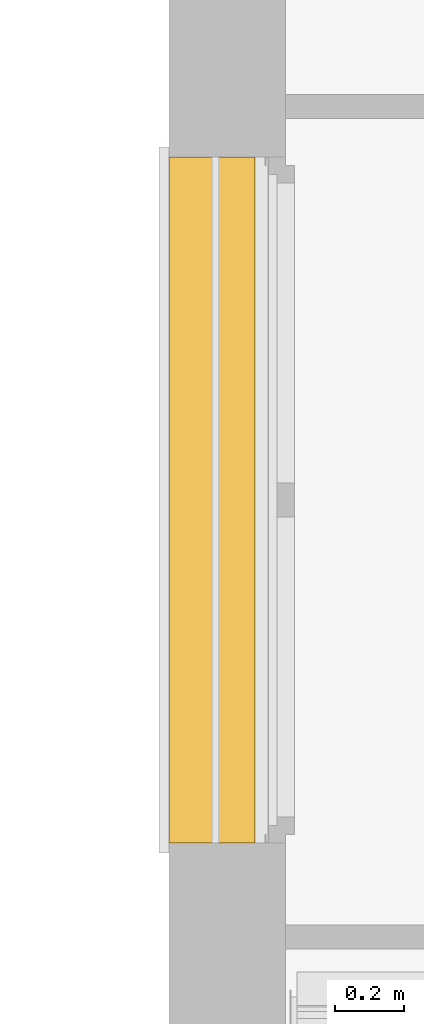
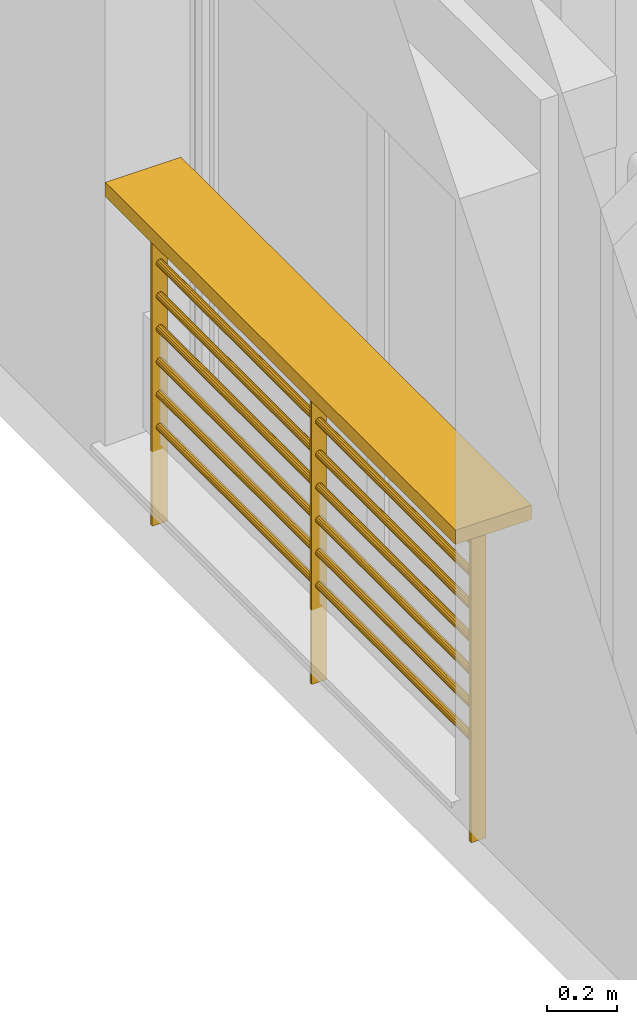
# One storey, part 117 of 171: 1 railing.
"""IFC2X3 building model written with IfcOpenShell, lengths in millimetres."""

import ifcopenshell
import ifcopenshell.guid

model = None  # the IFC model being written
_history = None  # IfcOwnerHistory: only IFC2X3 demands one
_inside = {}  # id of a spatial element -> (the spatial element, [elements in it])
_under = {}  # id of a project, library or spatial element -> (it, [spatial elements below it])
_declared = {}  # id of a project -> (the project, [libraries it declares])
_typed = {}  # id of a type object -> (the type object, [elements of that type])
_made_of = {}  # id of a material, layer set ... -> (it, [elements and type objects made of it])


def new_model(schema):
    """Start an empty IFC model of exactly this schema.

    Asked for "IFC4X3", IfcOpenShell would pick the latest addendum, in which some entities
    have other attributes; the version numbers below select the first issue.
    IFC2X3 requires an IfcOwnerHistory on every rooted entity: one is made here for all.
    """
    global model, _history
    if schema == "IFC4X3":
        model = ifcopenshell.file(schema_version=(4, 3, 0, 0))
    else:
        model = ifcopenshell.file(schema=schema)
    _inside.clear()
    _under.clear()
    _declared.clear()
    _typed.clear()
    _made_of.clear()
    _history = None
    if model.schema == "IFC2X3":
        org = make("IfcOrganization", Name="unknown")
        user = make(
            "IfcPersonAndOrganization",
            ThePerson=make("IfcPerson", FamilyName="unknown"),
            TheOrganization=org,
        )
        app = make(
            "IfcApplication",
            ApplicationDeveloper=org,
            Version="unknown",
            ApplicationFullName="unknown",
            ApplicationIdentifier="unknown",
        )
        _history = make(
            "IfcOwnerHistory",
            OwningUser=user,
            OwningApplication=app,
            ChangeAction="ADDED",
            CreationDate=0,
        )
    return model


def make(cls, **values):
    """One entity of the class cls with the attributes given. An attribute that is None is left unset."""
    return model.create_entity(
        cls, **{name: value for name, value in values.items() if value is not None}
    )


def entity(cls, *values):
    """Any entity or typed value of the class cls, its attributes in the order of the schema. None: left unset."""
    e = model.create_entity(cls)
    for i, value in enumerate(values):
        if value is not None:
            e[i] = value
    return e


def rooted(cls, **values):
    """An entity with a GlobalId (a new one), such as an element, a storey or a relation."""
    return make(cls, GlobalId=ifcopenshell.guid.new(), OwnerHistory=_history, **values)


def si_unit(unit_type, name, prefix=None):
    """IfcSIUnit, for example si_unit("LENGTHUNIT", "METRE", prefix="MILLI")."""
    return make("IfcSIUnit", UnitType=unit_type, Prefix=prefix, Name=name)


def converted_unit(unit_type, name, factor, base, dimensions=None, offset=None):
    """IfcConversionBasedUnit, such as the inch: factor (a typed value) times the base unit."""
    return make(
        "IfcConversionBasedUnit"
        if offset is None
        else "IfcConversionBasedUnitWithOffset",
        ConversionOffset=offset,
        Dimensions=None
        if dimensions is None
        else entity("IfcDimensionalExponents", *dimensions),
        UnitType=unit_type,
        Name=name,
        ConversionFactor=make(
            "IfcMeasureWithUnit", ValueComponent=factor, UnitComponent=base
        ),
    )


def derived_unit(unit_type, elements):
    """IfcDerivedUnit: a product of units, each with its exponent."""
    return make(
        "IfcDerivedUnit",
        Elements=[
            make("IfcDerivedUnitElement", Unit=unit, Exponent=power)
            for unit, power in elements
        ],
        UnitType=unit_type,
    )


def money_unit(currency):
    """IfcMonetaryUnit."""
    return make("IfcMonetaryUnit", Currency=currency)


def assignment(units):
    """IfcUnitAssignment: the units of a project."""
    return None if units is None else make("IfcUnitAssignment", Units=units)


def point(xyz):
    """IfcCartesianPoint."""
    return None if xyz is None else make("IfcCartesianPoint", Coordinates=xyz)


def direction(xyz):
    """IfcDirection."""
    return None if xyz is None else make("IfcDirection", DirectionRatios=xyz)


def frame(location, z_axis=None, x_axis=None):
    """IfcAxis2Placement3D, a coordinate frame: its origin and axes. An axis left out is left unset."""
    return make(
        "IfcAxis2Placement3D",
        Location=point(location),
        Axis=direction(z_axis),
        RefDirection=direction(x_axis),
    )


def origin_with_axes():
    """The frame at (0, 0, 0) with the z axis (0, 0, 1) and the x axis (1, 0, 0) written out."""
    return frame((0.0, 0.0, 0.0), z_axis=(0.0, 0.0, 1.0), x_axis=(1.0, 0.0, 0.0))


def place(relative_to, where):
    """IfcLocalPlacement: puts the frame where relative to a parent placement (None: the world)."""
    return make(
        "IfcLocalPlacement", PlacementRelTo=relative_to, RelativePlacement=where
    )


def context(
    kind, dimensions, precision=None, world=None, true_north=None, identifier=None
):
    """IfcGeometricRepresentationContext, for example the 3D "Model" context."""
    return make(
        "IfcGeometricRepresentationContext",
        ContextIdentifier=identifier,
        ContextType=kind,
        CoordinateSpaceDimension=dimensions,
        Precision=precision,
        WorldCoordinateSystem=world,
        TrueNorth=true_north,
    )


def subcontext(parent, identifier, kind, view, scale=None):
    """IfcGeometricRepresentationSubContext, for example "Body" below "Model"."""
    return make(
        "IfcGeometricRepresentationSubContext",
        ContextIdentifier=identifier,
        ContextType=kind,
        ParentContext=parent,
        TargetScale=scale,
        TargetView=view,
    )


def project(units=None, contexts=None):
    """IfcProject with its units and contexts."""
    return rooted(
        "IfcProject",
        Name="project",
        RepresentationContexts=contexts,
        UnitsInContext=assignment(units),
    )


def spatial(cls, under=None, at=None, **own):
    """A site, building, storey or space (cls), placed at a placement, below another one or the project."""
    s = rooted(cls, ObjectPlacement=at, **own)
    if under is not None:
        _under.setdefault(under.id(), (under, []))[1].append(s)
    return s


def faces_of(points, faces, orient=None, outer=None):
    """IfcFace entities. A face is a list of loops; a loop is a list of indices into points, from 0.

    orient and outer hold one flag for each loop. By default every Orientation is true, the
    first loop of a face is its IfcFaceOuterBound and the others are IfcFaceBound.
    """
    made = []
    for i, loops in enumerate(faces):
        bounds = []
        for j, loop in enumerate(loops):
            is_outer = j == 0 if outer is None else outer[i][j]
            bounds.append(
                make(
                    "IfcFaceOuterBound" if is_outer else "IfcFaceBound",
                    Bound=make("IfcPolyLoop", Polygon=[points[k] for k in loop]),
                    Orientation=True if orient is None else orient[i][j],
                )
            )
        made.append(make("IfcFace", Bounds=bounds))
    return made


def faceted_brep(points, faces, orient=None, outer=None, voids=None):
    """IfcFacetedBrep: a solid bounded by flat faces; with voids (closed shells), ...WithVoids."""
    shared = [point(p) for p in points]
    hull = make("IfcClosedShell", CfsFaces=faces_of(shared, faces, orient, outer))
    if voids is None:
        return make("IfcFacetedBrep", Outer=hull)
    return make(
        "IfcFacetedBrepWithVoids",
        Outer=hull,
        Voids=[
            make(cls, CfsFaces=faces_of(shared, fs, o, b)) for cls, fs, o, b in voids
        ],
    )


def shape(context_of_items, identifier, shape_type, items):
    """IfcShapeRepresentation: the items that make up one representation, for example the "Body"."""
    return make(
        "IfcShapeRepresentation",
        ContextOfItems=context_of_items,
        RepresentationIdentifier=identifier,
        RepresentationType=shape_type,
        Items=items,
    )


def source(mapping_origin, context_of_items, identifier, shape_type, items):
    """IfcRepresentationMap: a shape defined once, which mapped items show again and again."""
    return make(
        "IfcRepresentationMap",
        MappingOrigin=mapping_origin,
        MappedRepresentation=shape(context_of_items, identifier, shape_type, items),
    )


def transform(
    local_origin,
    x_axis=None,
    y_axis=None,
    z_axis=None,
    scale=None,
    scale2=None,
    scale3=None,
    uniform=True,
):
    """IfcCartesianTransformationOperator3D, or its non-uniform kind. x_axis, y_axis, z_axis: its Axis1, 2, 3."""
    if uniform:
        return make(
            "IfcCartesianTransformationOperator3D",
            Axis1=direction(x_axis),
            Axis2=direction(y_axis),
            LocalOrigin=point(local_origin),
            Scale=scale,
            Axis3=direction(z_axis),
        )
    return make(
        "IfcCartesianTransformationOperator3DnonUniform",
        Axis1=direction(x_axis),
        Axis2=direction(y_axis),
        LocalOrigin=point(local_origin),
        Scale=scale,
        Axis3=direction(z_axis),
        Scale2=scale2,
        Scale3=scale3,
    )


def mapped(mapping_source, mapping_target):
    """IfcMappedItem: shows the shape of a source again, moved by a transform."""
    return make(
        "IfcMappedItem", MappingSource=mapping_source, MappingTarget=mapping_target
    )


def made_of(thing, what):
    """Note that an element or type object is made of a material, layer set ...; save() writes the relation."""
    if what is not None:
        _made_of.setdefault(what.id(), (what, []))[1].append(thing)
    return thing


def type_object(cls, material=None, **own):
    """A type object (cls), such as IfcWallType, which elements share."""
    return made_of(rooted(cls, **own), material)


def element(
    cls,
    number,
    at=None,
    inside=None,
    cuts=None,
    type_object=None,
    material=None,
    context=None,
    identifier="Body",
    shape_type=None,
    held_by="IfcProductDefinitionShape",
    body=None,
    shapes=None,
    **own,
):
    """One element of the class cls, such as IfcWall. Its Tag is "e" and its number.

    at: its placement. inside: the storey or other place that contains it. cuts: it is an
    opening in that element (IfcRelVoidsElement). A single representation is given by context,
    identifier, shape_type and body (its items); several are given by shapes. held_by: the class
    of the entity that holds the representations. save() writes the other relations.
    """
    e = rooted(cls, Tag="e%d" % number, ObjectPlacement=at, **own)
    if body is not None:
        shapes = [shape(context, identifier, shape_type, body)]
    if shapes is not None:
        e.Representation = make(held_by, Representations=shapes)
    if inside is not None:
        _inside.setdefault(inside.id(), (inside, []))[1].append(e)
    if cuts is not None:
        rooted(
            "IfcRelVoidsElement", RelatingBuildingElement=cuts, RelatedOpeningElement=e
        )
    if type_object is not None:
        _typed.setdefault(type_object.id(), (type_object, []))[1].append(e)
    return made_of(e, material)


def aggregate(whole, parts):
    """IfcRelAggregates: a whole, such as a stair, and the parts it consists of."""
    return rooted("IfcRelAggregates", RelatingObject=whole, RelatedObjects=parts)


def save(model, path):
    """Write the relations noted so far, then the file.

    IfcRelAggregates (storeys below a building ...), IfcRelContainedInSpatialStructure (elements
    in a storey), IfcRelDefinesByType, IfcRelAssociatesMaterial and IfcRelDeclares: one each for
    every whole, place, type object, material and project.
    """
    for whole, parts in _under.values():
        aggregate(whole, parts)
    for where, things in _inside.values():
        rooted(
            "IfcRelContainedInSpatialStructure",
            RelatedElements=things,
            RelatingStructure=where,
        )
    for kind, things in _typed.values():
        rooted("IfcRelDefinesByType", RelatedObjects=things, RelatingType=kind)
    for what, things in _made_of.values():
        rooted("IfcRelAssociatesMaterial", RelatedObjects=things, RelatingMaterial=what)
    for by, libraries in _declared.values():
        rooted("IfcRelDeclares", RelatingContext=by, RelatedDefinitions=libraries)
    model.write(path)


model = new_model("IFC2X3")

# Units and contexts
model_context = context("Model", 3, precision=0.01, world=origin_with_axes(), true_north=direction((0.0, 1.0)))
body_context = subcontext(model_context, "Body", "Model", "MODEL_VIEW")
ifc_project = project(units=[si_unit("LENGTHUNIT", "METRE", prefix="MILLI"), si_unit("AREAUNIT", "SQUARE_METRE"), si_unit("VOLUMEUNIT", "CUBIC_METRE"), converted_unit("PLANEANGLEUNIT", "DEGREE", entity("IfcPlaneAngleMeasure", 0.0174532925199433), si_unit("PLANEANGLEUNIT", "RADIAN"), dimensions=[0, 0, 0, 0, 0, 0, 0]), money_unit("USD"), converted_unit("TIMEUNIT", "Year", entity("IfcTimeMeasure", 31557600.0), si_unit("TIMEUNIT", "SECOND"), dimensions=[0, 0, 1, 0, 0, 0, 0]), si_unit("MASSUNIT", "GRAM", prefix="KILO"), si_unit("THERMODYNAMICTEMPERATUREUNIT", "DEGREE_CELSIUS"), si_unit("LUMINOUSINTENSITYUNIT", "LUMEN"), si_unit("ENERGYUNIT", "JOULE", prefix="MEGA"), derived_unit("THERMALCONDUCTANCEUNIT", [(si_unit("POWERUNIT", "WATT"), 1), (si_unit("LENGTHUNIT", "METRE"), -1), (si_unit("THERMODYNAMICTEMPERATUREUNIT", "KELVIN"), -1)]), derived_unit("SPECIFICHEATCAPACITYUNIT", [(si_unit("ENERGYUNIT", "JOULE"), 1), (si_unit("MASSUNIT", "GRAM", prefix="KILO"), -1), (si_unit("THERMODYNAMICTEMPERATUREUNIT", "KELVIN"), -1)]), derived_unit("MASSDENSITYUNIT", [(si_unit("MASSUNIT", "GRAM", prefix="KILO"), 1), (si_unit("VOLUMEUNIT", "CUBIC_METRE"), -1)])], contexts=[model_context])

# Site, building, storey
site_placement = place(None, origin_with_axes())
site = spatial("IfcSite", under=ifc_project, at=site_placement, Name="Site", CompositionType="ELEMENT")
building_placement = place(site_placement, origin_with_axes())
building = spatial("IfcBuilding", under=site, at=building_placement, Name="Bâtiment", CompositionType="ELEMENT")
storey_placement = place(building_placement, frame((0.0, 0.0, 3000.0), z_axis=(0.0, 0.0, 1.0), x_axis=(1.0, 0.0, 0.0)))
storey = spatial("IfcBuildingStorey", under=building, at=storey_placement, Name="rdc", CompositionType="ELEMENT", Elevation=3000.0)

# Railing
railing_type = type_object("IfcRailingType", Name="Cadre avec câble 01 20", PredefinedType="NOTDEFINED")
shared_shape = source(origin_with_axes(), body_context, "Body", "Brep", [
    faceted_brep([(0.0, 125.0, 950.0), (0.0, -125.0, 950.0), (0.0, -125.0, 1000.0), (0.0, 125.0, 1000.0), (1999.999999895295, 125.0, 950.0), (1999.999999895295, -125.0, 950.0), (1999.999999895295, -125.0, 1000.0), (1999.999999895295, 125.0, 1000.0)], [[[0, 1, 2, 3]], [[0, 4, 5, 1]], [[1, 5, 6, 2]], [[3, 2, 6, 7]], [[4, 0, 3, 7]], [[5, 4, 7, 6]]]),
    faceted_brep([(84.99999999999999, -25.0, -176.0), (95.0, -25.0, -176.0), (95.0, -25.0, 950.0), (84.99999999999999, -25.0, 950.0), (84.99999999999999, 25.0, -176.0), (95.0, 25.0, -176.0), (95.0, 25.0, 950.0), (84.99999999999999, 25.0, 950.0)], [[[0, 1, 2, 3]], [[0, 4, 5, 1]], [[1, 5, 6, 2]], [[3, 2, 6, 7]], [[4, 0, 3, 7]], [[5, 4, 7, 6]]]),
    faceted_brep([(994.9999999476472, -25.0, -176.0), (1004.999999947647, -25.0, -176.0), (1004.999999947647, -25.0, 950.0), (994.9999999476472, -25.0, 950.0), (994.9999999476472, 25.0, -176.0), (1004.999999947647, 25.0, -176.0), (1004.999999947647, 25.0, 950.0), (994.9999999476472, 25.0, 950.0)], [[[0, 1, 2, 3]], [[0, 4, 5, 1]], [[1, 5, 6, 2]], [[3, 2, 6, 7]], [[4, 0, 3, 7]], [[5, 4, 7, 6]]]),
    faceted_brep([(1904.999999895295, -25.0, -176.0), (1914.999999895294, -25.0, -176.0), (1914.999999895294, -25.0, 950.0), (1904.999999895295, -25.0, 950.0), (1904.999999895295, 25.0, -176.0), (1914.999999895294, 25.0, -176.0), (1914.999999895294, 25.0, 950.0), (1904.999999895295, 25.0, 950.0)], [[[0, 1, 2, 3]], [[0, 4, 5, 1]], [[1, 5, 6, 2]], [[3, 2, 6, 7]], [[4, 0, 3, 7]], [[5, 4, 7, 6]]]),
    faceted_brep([(994.9999999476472, 10.82531754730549, 168.7500000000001), (994.9999999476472, 12.5, 162.5000000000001), (95.0, 12.5, 162.5), (95.0, 10.82531754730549, 168.75), (994.9999999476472, 10.82531754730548, 156.2500000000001), (994.9999999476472, 6.250000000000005, 173.3253175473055), (994.9999999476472, 0.0, 175.0000000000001), (994.9999999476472, -6.249999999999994, 173.3253175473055), (994.9999999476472, -10.82531754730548, 168.7500000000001), (994.9999999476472, -12.5, 162.5000000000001), (994.9999999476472, -10.82531754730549, 156.2500000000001), (994.9999999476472, -6.250000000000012, 151.6746824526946), (994.9999999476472, 0.0, 150.0000000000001), (994.9999999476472, 6.249999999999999, 151.6746824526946), (95.0, 10.82531754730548, 156.25), (95.0, 6.249999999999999, 151.6746824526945), (95.0, 0.0, 150.0), (95.0, -6.250000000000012, 151.6746824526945), (95.0, -10.82531754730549, 156.25), (95.0, -12.5, 162.5), (95.0, -10.82531754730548, 168.75), (95.0, -6.249999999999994, 173.3253175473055), (95.0, 0.0, 175.0), (95.0, 6.250000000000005, 173.3253175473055)], [[[0, 1, 2, 3]], [[4, 1, 0, 5, 6, 7, 8, 9, 10, 11, 12, 13]], [[1, 4, 14, 2]], [[3, 2, 14, 15, 16, 17, 18, 19, 20, 21, 22, 23]], [[5, 0, 3, 23]], [[6, 5, 23, 22]], [[7, 6, 22, 21]], [[8, 7, 21, 20]], [[9, 8, 20, 19]], [[10, 9, 19, 18]], [[11, 10, 18, 17]], [[12, 11, 17, 16]], [[13, 12, 16, 15]], [[4, 13, 15, 14]]]),
    faceted_brep([(1004.999999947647, 10.82531754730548, 156.2500000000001), (1004.999999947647, 12.5, 162.5000000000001), (1904.999999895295, 12.5, 162.5000000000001), (1904.999999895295, 10.82531754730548, 156.2500000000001), (1004.999999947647, 10.82531754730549, 168.7500000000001), (1004.999999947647, 6.249999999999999, 151.6746824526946), (1004.999999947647, 0.0, 150.0000000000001), (1004.999999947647, -6.250000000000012, 151.6746824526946), (1004.999999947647, -10.82531754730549, 156.2500000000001), (1004.999999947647, -12.5, 162.5000000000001), (1004.999999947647, -10.82531754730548, 168.7500000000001), (1004.999999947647, -6.249999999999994, 173.3253175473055), (1004.999999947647, 0.0, 175.0000000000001), (1004.999999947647, 6.250000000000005, 173.3253175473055), (1904.999999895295, 10.82531754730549, 168.7500000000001), (1904.999999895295, 6.250000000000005, 173.3253175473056), (1904.999999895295, 0.0, 175.0000000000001), (1904.999999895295, -6.249999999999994, 173.3253175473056), (1904.999999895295, -10.82531754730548, 168.7500000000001), (1904.999999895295, -12.5, 162.5000000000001), (1904.999999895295, -10.82531754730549, 156.2500000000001), (1904.999999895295, -6.250000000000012, 151.6746824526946), (1904.999999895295, 0.0, 150.0000000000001), (1904.999999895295, 6.249999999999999, 151.6746824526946)], [[[0, 1, 2, 3]], [[4, 1, 0, 5, 6, 7, 8, 9, 10, 11, 12, 13]], [[1, 4, 14, 2]], [[3, 2, 14, 15, 16, 17, 18, 19, 20, 21, 22, 23]], [[5, 0, 3, 23]], [[6, 5, 23, 22]], [[7, 6, 22, 21]], [[8, 7, 21, 20]], [[9, 8, 20, 19]], [[10, 9, 19, 18]], [[11, 10, 18, 17]], [[12, 11, 17, 16]], [[13, 12, 16, 15]], [[4, 13, 15, 14]]]),
    faceted_brep([(994.9999999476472, 10.82531754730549, 283.0357142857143), (994.9999999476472, 12.5, 276.7857142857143), (95.0, 12.5, 276.7857142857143), (95.0, 10.82531754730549, 283.0357142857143), (994.9999999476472, 10.82531754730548, 270.5357142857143), (994.9999999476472, 6.250000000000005, 287.6110318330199), (994.9999999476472, 0.0, 289.2857142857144), (994.9999999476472, -6.249999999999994, 287.6110318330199), (994.9999999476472, -10.82531754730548, 283.0357142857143), (994.9999999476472, -12.5, 276.7857142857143), (994.9999999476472, -10.82531754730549, 270.5357142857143), (994.9999999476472, -6.250000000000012, 265.9603967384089), (994.9999999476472, 0.0, 264.2857142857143), (994.9999999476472, 6.249999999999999, 265.9603967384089), (95.0, 10.82531754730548, 270.5357142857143), (95.0, 6.249999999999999, 265.9603967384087), (95.0, 0.0, 264.2857142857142), (95.0, -6.250000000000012, 265.9603967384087), (95.0, -10.82531754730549, 270.5357142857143), (95.0, -12.5, 276.7857142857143), (95.0, -10.82531754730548, 283.0357142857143), (95.0, -6.249999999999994, 287.6110318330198), (95.0, 0.0, 289.2857142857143), (95.0, 6.250000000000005, 287.6110318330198)], [[[0, 1, 2, 3]], [[4, 1, 0, 5, 6, 7, 8, 9, 10, 11, 12, 13]], [[1, 4, 14, 2]], [[3, 2, 14, 15, 16, 17, 18, 19, 20, 21, 22, 23]], [[5, 0, 3, 23]], [[6, 5, 23, 22]], [[7, 6, 22, 21]], [[8, 7, 21, 20]], [[9, 8, 20, 19]], [[10, 9, 19, 18]], [[11, 10, 18, 17]], [[12, 11, 17, 16]], [[13, 12, 16, 15]], [[4, 13, 15, 14]]]),
    faceted_brep([(1004.999999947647, 10.82531754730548, 270.5357142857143), (1004.999999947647, 12.5, 276.7857142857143), (1904.999999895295, 12.5, 276.7857142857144), (1904.999999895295, 10.82531754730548, 270.5357142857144), (1004.999999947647, 10.82531754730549, 283.0357142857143), (1004.999999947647, 6.249999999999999, 265.9603967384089), (1004.999999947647, 0.0, 264.2857142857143), (1004.999999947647, -6.250000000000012, 265.9603967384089), (1004.999999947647, -10.82531754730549, 270.5357142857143), (1004.999999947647, -12.5, 276.7857142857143), (1004.999999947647, -10.82531754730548, 283.0357142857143), (1004.999999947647, -6.249999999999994, 287.6110318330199), (1004.999999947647, 0.0, 289.2857142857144), (1004.999999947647, 6.250000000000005, 287.6110318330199), (1904.999999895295, 10.82531754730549, 283.0357142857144), (1904.999999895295, 6.250000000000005, 287.6110318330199), (1904.999999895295, 0.0, 289.2857142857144), (1904.999999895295, -6.249999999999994, 287.6110318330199), (1904.999999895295, -10.82531754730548, 283.0357142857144), (1904.999999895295, -12.5, 276.7857142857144), (1904.999999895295, -10.82531754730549, 270.5357142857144), (1904.999999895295, -6.250000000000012, 265.9603967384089), (1904.999999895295, 0.0, 264.2857142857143), (1904.999999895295, 6.249999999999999, 265.9603967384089)], [[[0, 1, 2, 3]], [[4, 1, 0, 5, 6, 7, 8, 9, 10, 11, 12, 13]], [[1, 4, 14, 2]], [[3, 2, 14, 15, 16, 17, 18, 19, 20, 21, 22, 23]], [[5, 0, 3, 23]], [[6, 5, 23, 22]], [[7, 6, 22, 21]], [[8, 7, 21, 20]], [[9, 8, 20, 19]], [[10, 9, 19, 18]], [[11, 10, 18, 17]], [[12, 11, 17, 16]], [[13, 12, 16, 15]], [[4, 13, 15, 14]]]),
    faceted_brep([(994.9999999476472, 10.82531754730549, 397.3214285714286), (994.9999999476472, 12.5, 391.0714285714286), (95.0, 12.5, 391.0714285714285), (95.0, 10.82531754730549, 397.3214285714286), (994.9999999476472, 10.82531754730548, 384.8214285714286), (994.9999999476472, 6.250000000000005, 401.896746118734), (994.9999999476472, 0.0, 403.5714285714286), (994.9999999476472, -6.249999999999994, 401.896746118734), (994.9999999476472, -10.82531754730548, 397.3214285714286), (994.9999999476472, -12.5, 391.0714285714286), (994.9999999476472, -10.82531754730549, 384.8214285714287), (994.9999999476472, -6.250000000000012, 380.2461110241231), (994.9999999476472, 0.0, 378.5714285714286), (994.9999999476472, 6.249999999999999, 380.2461110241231), (95.0, 10.82531754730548, 384.8214285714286), (95.0, 6.249999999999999, 380.2461110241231), (95.0, 0.0, 378.5714285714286), (95.0, -6.250000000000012, 380.2461110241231), (95.0, -10.82531754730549, 384.8214285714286), (95.0, -12.5, 391.0714285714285), (95.0, -10.82531754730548, 397.3214285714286), (95.0, -6.249999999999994, 401.896746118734), (95.0, 0.0, 403.5714285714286), (95.0, 6.250000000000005, 401.896746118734)], [[[0, 1, 2, 3]], [[4, 1, 0, 5, 6, 7, 8, 9, 10, 11, 12, 13]], [[1, 4, 14, 2]], [[3, 2, 14, 15, 16, 17, 18, 19, 20, 21, 22, 23]], [[5, 0, 3, 23]], [[6, 5, 23, 22]], [[7, 6, 22, 21]], [[8, 7, 21, 20]], [[9, 8, 20, 19]], [[10, 9, 19, 18]], [[11, 10, 18, 17]], [[12, 11, 17, 16]], [[13, 12, 16, 15]], [[4, 13, 15, 14]]]),
    faceted_brep([(1004.999999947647, 10.82531754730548, 384.8214285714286), (1004.999999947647, 12.5, 391.0714285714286), (1904.999999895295, 12.5, 391.0714285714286), (1904.999999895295, 10.82531754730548, 384.8214285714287), (1004.999999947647, 10.82531754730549, 397.3214285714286), (1004.999999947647, 6.249999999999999, 380.2461110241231), (1004.999999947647, 0.0, 378.5714285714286), (1004.999999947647, -6.250000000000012, 380.2461110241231), (1004.999999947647, -10.82531754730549, 384.8214285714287), (1004.999999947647, -12.5, 391.0714285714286), (1004.999999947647, -10.82531754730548, 397.3214285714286), (1004.999999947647, -6.249999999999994, 401.896746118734), (1004.999999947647, 0.0, 403.5714285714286), (1004.999999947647, 6.250000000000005, 401.896746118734), (1904.999999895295, 10.82531754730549, 397.3214285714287), (1904.999999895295, 6.250000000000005, 401.8967461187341), (1904.999999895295, 0.0, 403.5714285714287), (1904.999999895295, -6.249999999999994, 401.8967461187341), (1904.999999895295, -10.82531754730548, 397.3214285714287), (1904.999999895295, -12.5, 391.0714285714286), (1904.999999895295, -10.82531754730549, 384.8214285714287), (1904.999999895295, -6.250000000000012, 380.2461110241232), (1904.999999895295, 0.0, 378.5714285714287), (1904.999999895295, 6.249999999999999, 380.2461110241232)], [[[0, 1, 2, 3]], [[4, 1, 0, 5, 6, 7, 8, 9, 10, 11, 12, 13]], [[1, 4, 14, 2]], [[3, 2, 14, 15, 16, 17, 18, 19, 20, 21, 22, 23]], [[5, 0, 3, 23]], [[6, 5, 23, 22]], [[7, 6, 22, 21]], [[8, 7, 21, 20]], [[9, 8, 20, 19]], [[10, 9, 19, 18]], [[11, 10, 18, 17]], [[12, 11, 17, 16]], [[13, 12, 16, 15]], [[4, 13, 15, 14]]]),
    faceted_brep([(994.9999999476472, 10.82531754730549, 511.6071428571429), (994.9999999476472, 12.5, 505.3571428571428), (95.0, 12.5, 505.3571428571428), (95.0, 10.82531754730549, 511.6071428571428), (994.9999999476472, 10.82531754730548, 499.1071428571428), (994.9999999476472, 6.250000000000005, 516.1824604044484), (994.9999999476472, 0.0, 517.8571428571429), (994.9999999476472, -6.249999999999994, 516.1824604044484), (994.9999999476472, -10.82531754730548, 511.6071428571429), (994.9999999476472, -12.5, 505.3571428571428), (994.9999999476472, -10.82531754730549, 499.1071428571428), (994.9999999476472, -6.250000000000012, 494.5318253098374), (994.9999999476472, 0.0, 492.8571428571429), (994.9999999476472, 6.249999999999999, 494.5318253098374), (95.0, 10.82531754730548, 499.1071428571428), (95.0, 6.249999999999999, 494.5318253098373), (95.0, 0.0, 492.8571428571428), (95.0, -6.250000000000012, 494.5318253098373), (95.0, -10.82531754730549, 499.1071428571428), (95.0, -12.5, 505.3571428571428), (95.0, -10.82531754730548, 511.6071428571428), (95.0, -6.249999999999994, 516.1824604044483), (95.0, 0.0, 517.8571428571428), (95.0, 6.250000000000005, 516.1824604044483)], [[[0, 1, 2, 3]], [[4, 1, 0, 5, 6, 7, 8, 9, 10, 11, 12, 13]], [[1, 4, 14, 2]], [[3, 2, 14, 15, 16, 17, 18, 19, 20, 21, 22, 23]], [[5, 0, 3, 23]], [[6, 5, 23, 22]], [[7, 6, 22, 21]], [[8, 7, 21, 20]], [[9, 8, 20, 19]], [[10, 9, 19, 18]], [[11, 10, 18, 17]], [[12, 11, 17, 16]], [[13, 12, 16, 15]], [[4, 13, 15, 14]]]),
    faceted_brep([(1004.999999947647, 10.82531754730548, 499.1071428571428), (1004.999999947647, 12.5, 505.3571428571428), (1904.999999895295, 12.5, 505.3571428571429), (1904.999999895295, 10.82531754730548, 499.1071428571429), (1004.999999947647, 10.82531754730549, 511.6071428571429), (1004.999999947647, 6.249999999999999, 494.5318253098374), (1004.999999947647, 0.0, 492.8571428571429), (1004.999999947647, -6.250000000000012, 494.5318253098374), (1004.999999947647, -10.82531754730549, 499.1071428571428), (1004.999999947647, -12.5, 505.3571428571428), (1004.999999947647, -10.82531754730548, 511.6071428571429), (1004.999999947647, -6.249999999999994, 516.1824604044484), (1004.999999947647, 0.0, 517.8571428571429), (1004.999999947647, 6.250000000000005, 516.1824604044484), (1904.999999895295, 10.82531754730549, 511.6071428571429), (1904.999999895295, 6.250000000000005, 516.1824604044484), (1904.999999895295, 0.0, 517.8571428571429), (1904.999999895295, -6.249999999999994, 516.1824604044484), (1904.999999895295, -10.82531754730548, 511.6071428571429), (1904.999999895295, -12.5, 505.3571428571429), (1904.999999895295, -10.82531754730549, 499.1071428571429), (1904.999999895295, -6.250000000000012, 494.5318253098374), (1904.999999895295, 0.0, 492.8571428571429), (1904.999999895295, 6.249999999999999, 494.5318253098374)], [[[0, 1, 2, 3]], [[4, 1, 0, 5, 6, 7, 8, 9, 10, 11, 12, 13]], [[1, 4, 14, 2]], [[3, 2, 14, 15, 16, 17, 18, 19, 20, 21, 22, 23]], [[5, 0, 3, 23]], [[6, 5, 23, 22]], [[7, 6, 22, 21]], [[8, 7, 21, 20]], [[9, 8, 20, 19]], [[10, 9, 19, 18]], [[11, 10, 18, 17]], [[12, 11, 17, 16]], [[13, 12, 16, 15]], [[4, 13, 15, 14]]]),
    faceted_brep([(994.9999999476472, 10.82531754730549, 625.8928571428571), (994.9999999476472, 12.5, 619.6428571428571), (95.0, 12.5, 619.642857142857), (95.0, 10.82531754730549, 625.892857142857), (994.9999999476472, 10.82531754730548, 613.3928571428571), (994.9999999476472, 6.250000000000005, 630.4681746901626), (994.9999999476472, 0.0, 632.1428571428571), (994.9999999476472, -6.249999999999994, 630.4681746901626), (994.9999999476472, -10.82531754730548, 625.8928571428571), (994.9999999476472, -12.5, 619.6428571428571), (994.9999999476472, -10.82531754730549, 613.3928571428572), (994.9999999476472, -6.250000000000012, 608.8175395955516), (994.9999999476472, 0.0, 607.1428571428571), (994.9999999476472, 6.249999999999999, 608.8175395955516), (95.0, 10.82531754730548, 613.3928571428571), (95.0, 6.249999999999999, 608.8175395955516), (95.0, 0.0, 607.1428571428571), (95.0, -6.250000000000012, 608.8175395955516), (95.0, -10.82531754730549, 613.3928571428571), (95.0, -12.5, 619.642857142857), (95.0, -10.82531754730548, 625.892857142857), (95.0, -6.249999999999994, 630.4681746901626), (95.0, 0.0, 632.1428571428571), (95.0, 6.250000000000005, 630.4681746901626)], [[[0, 1, 2, 3]], [[4, 1, 0, 5, 6, 7, 8, 9, 10, 11, 12, 13]], [[1, 4, 14, 2]], [[3, 2, 14, 15, 16, 17, 18, 19, 20, 21, 22, 23]], [[5, 0, 3, 23]], [[6, 5, 23, 22]], [[7, 6, 22, 21]], [[8, 7, 21, 20]], [[9, 8, 20, 19]], [[10, 9, 19, 18]], [[11, 10, 18, 17]], [[12, 11, 17, 16]], [[13, 12, 16, 15]], [[4, 13, 15, 14]]]),
    faceted_brep([(1004.999999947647, 10.82531754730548, 613.3928571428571), (1004.999999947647, 12.5, 619.6428571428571), (1904.999999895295, 12.5, 619.6428571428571), (1904.999999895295, 10.82531754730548, 613.3928571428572), (1004.999999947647, 10.82531754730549, 625.8928571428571), (1004.999999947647, 6.249999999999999, 608.8175395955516), (1004.999999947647, 0.0, 607.1428571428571), (1004.999999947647, -6.250000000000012, 608.8175395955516), (1004.999999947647, -10.82531754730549, 613.3928571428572), (1004.999999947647, -12.5, 619.6428571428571), (1004.999999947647, -10.82531754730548, 625.8928571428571), (1004.999999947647, -6.249999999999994, 630.4681746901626), (1004.999999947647, 0.0, 632.1428571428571), (1004.999999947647, 6.250000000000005, 630.4681746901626), (1904.999999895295, 10.82531754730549, 625.8928571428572), (1904.999999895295, 6.250000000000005, 630.4681746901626), (1904.999999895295, 0.0, 632.1428571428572), (1904.999999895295, -6.249999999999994, 630.4681746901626), (1904.999999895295, -10.82531754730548, 625.8928571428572), (1904.999999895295, -12.5, 619.6428571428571), (1904.999999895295, -10.82531754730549, 613.3928571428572), (1904.999999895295, -6.250000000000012, 608.8175395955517), (1904.999999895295, 0.0, 607.1428571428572), (1904.999999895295, 6.249999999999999, 608.8175395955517)], [[[0, 1, 2, 3]], [[4, 1, 0, 5, 6, 7, 8, 9, 10, 11, 12, 13]], [[1, 4, 14, 2]], [[3, 2, 14, 15, 16, 17, 18, 19, 20, 21, 22, 23]], [[5, 0, 3, 23]], [[6, 5, 23, 22]], [[7, 6, 22, 21]], [[8, 7, 21, 20]], [[9, 8, 20, 19]], [[10, 9, 19, 18]], [[11, 10, 18, 17]], [[12, 11, 17, 16]], [[13, 12, 16, 15]], [[4, 13, 15, 14]]]),
    faceted_brep([(994.9999999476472, 10.82531754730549, 740.1785714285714), (994.9999999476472, 12.5, 733.9285714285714), (95.0, 12.5, 733.9285714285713), (95.0, 10.82531754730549, 740.1785714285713), (994.9999999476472, 10.82531754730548, 727.6785714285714), (994.9999999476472, 6.250000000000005, 744.7538889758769), (994.9999999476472, 0.0, 746.4285714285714), (994.9999999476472, -6.249999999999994, 744.7538889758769), (994.9999999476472, -10.82531754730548, 740.1785714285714), (994.9999999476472, -12.5, 733.9285714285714), (994.9999999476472, -10.82531754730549, 727.6785714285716), (994.9999999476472, -6.250000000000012, 723.1032538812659), (994.9999999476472, 0.0, 721.4285714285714), (994.9999999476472, 6.249999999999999, 723.1032538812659), (95.0, 10.82531754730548, 727.6785714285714), (95.0, 6.249999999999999, 723.1032538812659), (95.0, 0.0, 721.4285714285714), (95.0, -6.250000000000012, 723.1032538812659), (95.0, -10.82531754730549, 727.6785714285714), (95.0, -12.5, 733.9285714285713), (95.0, -10.82531754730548, 740.1785714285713), (95.0, -6.249999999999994, 744.7538889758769), (95.0, 0.0, 746.4285714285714), (95.0, 6.250000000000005, 744.7538889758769)], [[[0, 1, 2, 3]], [[4, 1, 0, 5, 6, 7, 8, 9, 10, 11, 12, 13]], [[1, 4, 14, 2]], [[3, 2, 14, 15, 16, 17, 18, 19, 20, 21, 22, 23]], [[5, 0, 3, 23]], [[6, 5, 23, 22]], [[7, 6, 22, 21]], [[8, 7, 21, 20]], [[9, 8, 20, 19]], [[10, 9, 19, 18]], [[11, 10, 18, 17]], [[12, 11, 17, 16]], [[13, 12, 16, 15]], [[4, 13, 15, 14]]]),
    faceted_brep([(1004.999999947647, 10.82531754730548, 727.6785714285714), (1004.999999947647, 12.5, 733.9285714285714), (1904.999999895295, 12.5, 733.9285714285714), (1904.999999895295, 10.82531754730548, 727.6785714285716), (1004.999999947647, 10.82531754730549, 740.1785714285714), (1004.999999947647, 6.249999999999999, 723.1032538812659), (1004.999999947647, 0.0, 721.4285714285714), (1004.999999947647, -6.250000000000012, 723.1032538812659), (1004.999999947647, -10.82531754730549, 727.6785714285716), (1004.999999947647, -12.5, 733.9285714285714), (1004.999999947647, -10.82531754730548, 740.1785714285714), (1004.999999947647, -6.249999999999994, 744.7538889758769), (1004.999999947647, 0.0, 746.4285714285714), (1004.999999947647, 6.250000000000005, 744.7538889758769), (1904.999999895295, 10.82531754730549, 740.1785714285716), (1904.999999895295, 6.250000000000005, 744.753888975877), (1904.999999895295, 0.0, 746.4285714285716), (1904.999999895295, -6.249999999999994, 744.753888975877), (1904.999999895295, -10.82531754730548, 740.1785714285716), (1904.999999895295, -12.5, 733.9285714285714), (1904.999999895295, -10.82531754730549, 727.6785714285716), (1904.999999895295, -6.250000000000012, 723.103253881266), (1904.999999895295, 0.0, 721.4285714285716), (1904.999999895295, 6.249999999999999, 723.103253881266)], [[[0, 1, 2, 3]], [[4, 1, 0, 5, 6, 7, 8, 9, 10, 11, 12, 13]], [[1, 4, 14, 2]], [[3, 2, 14, 15, 16, 17, 18, 19, 20, 21, 22, 23]], [[5, 0, 3, 23]], [[6, 5, 23, 22]], [[7, 6, 22, 21]], [[8, 7, 21, 20]], [[9, 8, 20, 19]], [[10, 9, 19, 18]], [[11, 10, 18, 17]], [[12, 11, 17, 16]], [[13, 12, 16, 15]], [[4, 13, 15, 14]]]),
    faceted_brep([(994.9999999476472, 10.82531754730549, 854.4642857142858), (994.9999999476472, 12.5, 848.2142857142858), (95.0, 12.5, 848.2142857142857), (95.0, 10.82531754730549, 854.4642857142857), (994.9999999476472, 10.82531754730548, 841.9642857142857), (994.9999999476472, 6.250000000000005, 859.0396032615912), (994.9999999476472, 0.0, 860.7142857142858), (994.9999999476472, -6.249999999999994, 859.0396032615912), (994.9999999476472, -10.82531754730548, 854.4642857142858), (994.9999999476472, -12.5, 848.2142857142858), (994.9999999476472, -10.82531754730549, 841.9642857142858), (994.9999999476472, -6.250000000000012, 837.3889681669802), (994.9999999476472, 0.0, 835.7142857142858), (994.9999999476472, 6.249999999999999, 837.3889681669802), (95.0, 10.82531754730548, 841.9642857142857), (95.0, 6.249999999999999, 837.3889681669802), (95.0, 0.0, 835.7142857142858), (95.0, -6.250000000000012, 837.3889681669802), (95.0, -10.82531754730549, 841.9642857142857), (95.0, -12.5, 848.2142857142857), (95.0, -10.82531754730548, 854.4642857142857), (95.0, -6.249999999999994, 859.0396032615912), (95.0, 0.0, 860.7142857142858), (95.0, 6.250000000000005, 859.0396032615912)], [[[0, 1, 2, 3]], [[4, 1, 0, 5, 6, 7, 8, 9, 10, 11, 12, 13]], [[1, 4, 14, 2]], [[3, 2, 14, 15, 16, 17, 18, 19, 20, 21, 22, 23]], [[5, 0, 3, 23]], [[6, 5, 23, 22]], [[7, 6, 22, 21]], [[8, 7, 21, 20]], [[9, 8, 20, 19]], [[10, 9, 19, 18]], [[11, 10, 18, 17]], [[12, 11, 17, 16]], [[13, 12, 16, 15]], [[4, 13, 15, 14]]]),
    faceted_brep([(1004.999999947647, 10.82531754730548, 841.9642857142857), (1004.999999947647, 12.5, 848.2142857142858), (1904.999999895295, 12.5, 848.2142857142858), (1904.999999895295, 10.82531754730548, 841.9642857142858), (1004.999999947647, 10.82531754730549, 854.4642857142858), (1004.999999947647, 6.249999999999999, 837.3889681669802), (1004.999999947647, 0.0, 835.7142857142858), (1004.999999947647, -6.250000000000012, 837.3889681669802), (1004.999999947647, -10.82531754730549, 841.9642857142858), (1004.999999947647, -12.5, 848.2142857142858), (1004.999999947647, -10.82531754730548, 854.4642857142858), (1004.999999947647, -6.249999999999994, 859.0396032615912), (1004.999999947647, 0.0, 860.7142857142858), (1004.999999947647, 6.250000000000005, 859.0396032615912), (1904.999999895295, 10.82531754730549, 854.4642857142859), (1904.999999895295, 6.250000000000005, 859.0396032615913), (1904.999999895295, 0.0, 860.7142857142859), (1904.999999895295, -6.249999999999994, 859.0396032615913), (1904.999999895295, -10.82531754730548, 854.4642857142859), (1904.999999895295, -12.5, 848.2142857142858), (1904.999999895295, -10.82531754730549, 841.9642857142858), (1904.999999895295, -6.250000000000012, 837.3889681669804), (1904.999999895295, 0.0, 835.7142857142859), (1904.999999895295, 6.249999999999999, 837.3889681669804)], [[[0, 1, 2, 3]], [[4, 1, 0, 5, 6, 7, 8, 9, 10, 11, 12, 13]], [[1, 4, 14, 2]], [[3, 2, 14, 15, 16, 17, 18, 19, 20, 21, 22, 23]], [[5, 0, 3, 23]], [[6, 5, 23, 22]], [[7, 6, 22, 21]], [[8, 7, 21, 20]], [[9, 8, 20, 19]], [[10, 9, 19, 18]], [[11, 10, 18, 17]], [[12, 11, 17, 16]], [[13, 12, 16, 15]], [[4, 13, 15, 14]]]),
])
railing_placement = place(storey_placement, frame((2216759.233341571, -652103.6499936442, 0.0), z_axis=(0.0, 0.0, 1.0), x_axis=(0.0, 1.0, 0.0)))
element("IfcRailing", 1, at=railing_placement, inside=storey, type_object=railing_type, Name="Obj.-002", PredefinedType="NOTDEFINED", context=body_context, shape_type="MappedRepresentation", body=[
    mapped(shared_shape, transform((0.0, 0.0, 0.0))),
])

save(model, "model.ifc")
